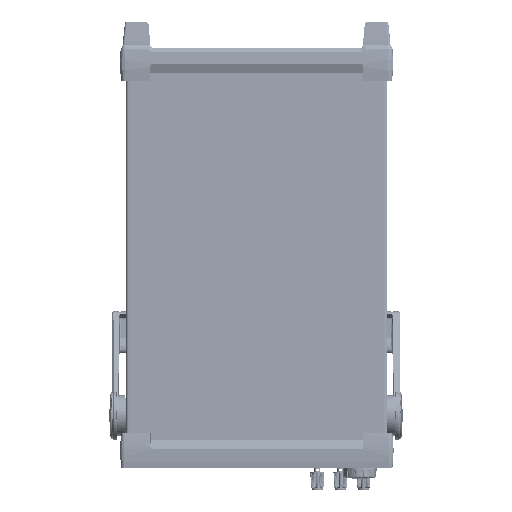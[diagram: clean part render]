
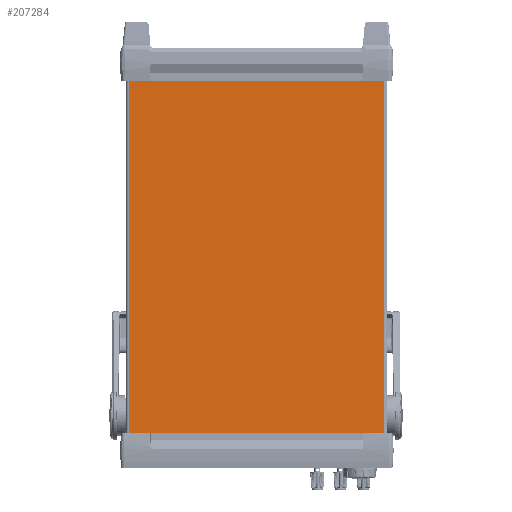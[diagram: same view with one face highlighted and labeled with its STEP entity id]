
A CAD part, top view. The second image highlights one B-rep face of the part: STEP entity #207284.
In plain terms, the highlighted planar face has unit normal (0, 0, 1) as drawn and (0, 1, 0) by its records, which use the part's own axes.
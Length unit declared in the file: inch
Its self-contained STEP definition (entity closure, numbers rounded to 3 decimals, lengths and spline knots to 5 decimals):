
#199937=DIRECTION('',(0.,0.,1.));
#199938=VECTOR('',#199937,12.635);
#199939=CARTESIAN_POINT('',(4.135,3.47305,-12.635));
#199940=LINE('',#199939,#199938);
#199946=DIRECTION('',(-1.,0.,0.));
#199947=VECTOR('',#199946,0.15);
#199948=CARTESIAN_POINT('',(-3.985,3.47305,-12.635));
#199949=LINE('',#199948,#199947);
#199950=DIRECTION('',(0.,0.,1.));
#199951=VECTOR('',#199950,0.1);
#199952=CARTESIAN_POINT('',(-3.985,3.47305,-12.735));
#199953=LINE('',#199952,#199951);
#199954=DIRECTION('',(-1.,0.,0.));
#199955=VECTOR('',#199954,7.97);
#199956=CARTESIAN_POINT('',(3.985,3.47305,-12.735));
#199957=LINE('',#199956,#199955);
#199958=DIRECTION('',(0.,0.,-1.));
#199959=VECTOR('',#199958,0.1);
#199960=CARTESIAN_POINT('',(3.985,3.47305,-12.635));
#199961=LINE('',#199960,#199959);
#199962=DIRECTION('',(-1.,0.,0.));
#199963=VECTOR('',#199962,0.15);
#199964=CARTESIAN_POINT('',(4.135,3.47305,-12.635));
#199965=LINE('',#199964,#199963);
#199966=DIRECTION('',(1.,0.,0.));
#199967=VECTOR('',#199966,8.27);
#199968=CARTESIAN_POINT('',(-4.135,3.47305,0.));
#199969=LINE('',#199968,#199967);
#199970=DIRECTION('',(1.,0.,0.));
#199971=VECTOR('',#199970,0.32);
#199972=CARTESIAN_POINT('',(-2.32,3.47305,-12.495));
#199973=LINE('',#199972,#199971);
#199974=DIRECTION('',(0.,0.,-1.));
#199975=VECTOR('',#199974,0.32);
#199976=CARTESIAN_POINT('',(-2.32,3.47305,-12.175));
#199977=LINE('',#199976,#199975);
#199978=DIRECTION('',(-1.,0.,0.));
#199979=VECTOR('',#199978,0.32);
#199980=CARTESIAN_POINT('',(-2.,3.47305,-12.175));
#199981=LINE('',#199980,#199979);
#199982=DIRECTION('',(0.,0.,1.));
#199983=VECTOR('',#199982,0.32);
#199984=CARTESIAN_POINT('',(-2.,3.47305,-12.495));
#199985=LINE('',#199984,#199983);
#199986=DIRECTION('',(1.,0.,0.));
#199987=VECTOR('',#199986,0.32);
#199988=CARTESIAN_POINT('',(2.,3.47305,-12.495));
#199989=LINE('',#199988,#199987);
#199990=DIRECTION('',(0.,0.,-1.));
#199991=VECTOR('',#199990,0.32);
#199992=CARTESIAN_POINT('',(2.,3.47305,-12.175));
#199993=LINE('',#199992,#199991);
#199994=DIRECTION('',(-1.,0.,0.));
#199995=VECTOR('',#199994,0.32);
#199996=CARTESIAN_POINT('',(2.32,3.47305,-12.175));
#199997=LINE('',#199996,#199995);
#199998=DIRECTION('',(0.,0.,1.));
#199999=VECTOR('',#199998,0.32);
#200000=CARTESIAN_POINT('',(2.32,3.47305,-12.495));
#200001=LINE('',#200000,#199999);
#200019=DIRECTION('',(0.,0.,-1.));
#200020=VECTOR('',#200019,12.635);
#200021=CARTESIAN_POINT('',(-4.135,3.47305,0.));
#200022=LINE('',#200021,#200020);
#202536=CARTESIAN_POINT('',(-4.135,3.47305,-12.635));
#202537=VERTEX_POINT('',#202536);
#202538=CARTESIAN_POINT('',(-4.135,3.47305,0.));
#202539=VERTEX_POINT('',#202538);
#202552=CARTESIAN_POINT('',(4.135,3.47305,0.));
#202553=VERTEX_POINT('',#202552);
#202554=CARTESIAN_POINT('',(4.135,3.47305,-12.635));
#202555=VERTEX_POINT('',#202554);
#202612=CARTESIAN_POINT('',(3.985,3.47305,-12.635));
#202613=CARTESIAN_POINT('',(3.985,3.47305,-12.735));
#202614=VERTEX_POINT('',#202612);
#202615=VERTEX_POINT('',#202613);
#202616=CARTESIAN_POINT('',(-3.985,3.47305,-12.735));
#202617=VERTEX_POINT('',#202616);
#202618=CARTESIAN_POINT('',(-3.985,3.47305,-12.635));
#202619=VERTEX_POINT('',#202618);
#203360=CARTESIAN_POINT('',(2.,3.47305,-12.495));
#203361=CARTESIAN_POINT('',(2.32,3.47305,-12.495));
#203362=VERTEX_POINT('',#203360);
#203363=VERTEX_POINT('',#203361);
#203364=CARTESIAN_POINT('',(2.32,3.47305,-12.175));
#203365=VERTEX_POINT('',#203364);
#203366=CARTESIAN_POINT('',(2.,3.47305,-12.175));
#203367=VERTEX_POINT('',#203366);
#203368=CARTESIAN_POINT('',(-2.32,3.47305,-12.495));
#203369=CARTESIAN_POINT('',(-2.,3.47305,-12.495));
#203370=VERTEX_POINT('',#203368);
#203371=VERTEX_POINT('',#203369);
#203372=CARTESIAN_POINT('',(-2.,3.47305,-12.175));
#203373=VERTEX_POINT('',#203372);
#203374=CARTESIAN_POINT('',(-2.32,3.47305,-12.175));
#203375=VERTEX_POINT('',#203374);
#207242=CARTESIAN_POINT('',(0.,3.47305,0.));
#207243=DIRECTION('',(0.,1.,0.));
#207244=DIRECTION('',(1.,0.,0.));
#207245=AXIS2_PLACEMENT_3D('',#207242,#207243,#207244);
#207246=PLANE('',#207245);
#207248=ORIENTED_EDGE('',*,*,#207247,.F.);
#207250=ORIENTED_EDGE('',*,*,#207249,.F.);
#207252=ORIENTED_EDGE('',*,*,#207251,.F.);
#207254=ORIENTED_EDGE('',*,*,#207253,.F.);
#207256=ORIENTED_EDGE('',*,*,#207255,.F.);
#207257=ORIENTED_EDGE('',*,*,#207235,.T.);
#207259=ORIENTED_EDGE('',*,*,#207258,.F.);
#207261=ORIENTED_EDGE('',*,*,#207260,.T.);
#207262=EDGE_LOOP('',(#207248,#207250,#207252,#207254,#207256,#207257,#207259,
#207261));
#207263=FACE_OUTER_BOUND('',#207262,.F.);
#207265=ORIENTED_EDGE('',*,*,#207264,.F.);
#207267=ORIENTED_EDGE('',*,*,#207266,.F.);
#207269=ORIENTED_EDGE('',*,*,#207268,.F.);
#207271=ORIENTED_EDGE('',*,*,#207270,.F.);
#207272=EDGE_LOOP('',(#207265,#207267,#207269,#207271));
#207273=FACE_BOUND('',#207272,.F.);
#207275=ORIENTED_EDGE('',*,*,#207274,.F.);
#207277=ORIENTED_EDGE('',*,*,#207276,.F.);
#207279=ORIENTED_EDGE('',*,*,#207278,.F.);
#207281=ORIENTED_EDGE('',*,*,#207280,.F.);
#207282=EDGE_LOOP('',(#207275,#207277,#207279,#207281));
#207283=FACE_BOUND('',#207282,.F.);
#207284=ADVANCED_FACE('',(#207263,#207273,#207283),#207246,.T.);
#207235=EDGE_CURVE('',#202555,#202553,#199940,.T.);
#207247=EDGE_CURVE('',#202619,#202537,#199949,.T.);
#207249=EDGE_CURVE('',#202617,#202619,#199953,.T.);
#207251=EDGE_CURVE('',#202615,#202617,#199957,.T.);
#207253=EDGE_CURVE('',#202614,#202615,#199961,.T.);
#207255=EDGE_CURVE('',#202555,#202614,#199965,.T.);
#207258=EDGE_CURVE('',#202539,#202553,#199969,.T.);
#207260=EDGE_CURVE('',#202539,#202537,#200022,.T.);
#207264=EDGE_CURVE('',#203370,#203371,#199973,.T.);
#207266=EDGE_CURVE('',#203375,#203370,#199977,.T.);
#207268=EDGE_CURVE('',#203373,#203375,#199981,.T.);
#207270=EDGE_CURVE('',#203371,#203373,#199985,.T.);
#207274=EDGE_CURVE('',#203362,#203363,#199989,.T.);
#207276=EDGE_CURVE('',#203367,#203362,#199993,.T.);
#207278=EDGE_CURVE('',#203365,#203367,#199997,.T.);
#207280=EDGE_CURVE('',#203363,#203365,#200001,.T.);
